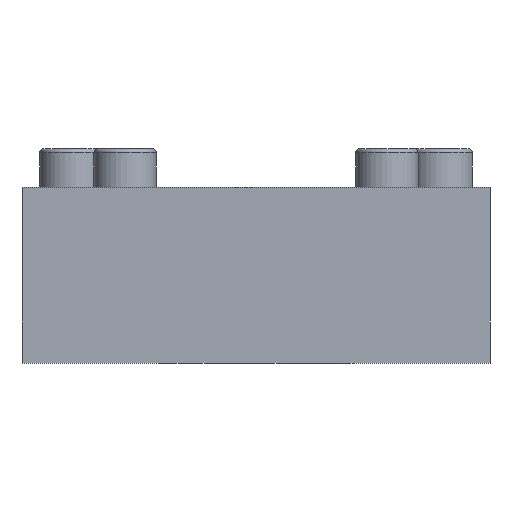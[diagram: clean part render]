
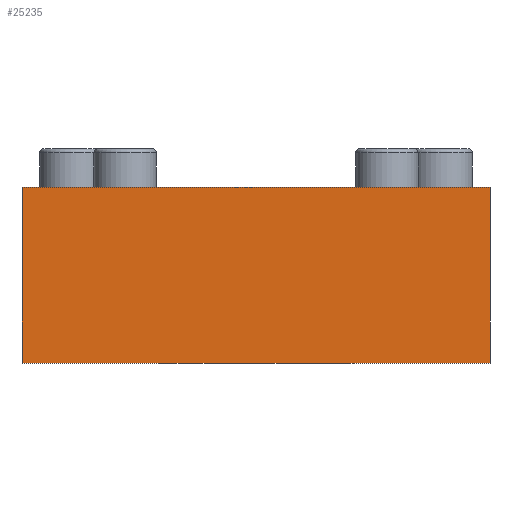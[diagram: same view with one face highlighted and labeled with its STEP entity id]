
A CAD part, front view. The second image highlights one B-rep face of the part: STEP entity #25235.
In plain terms, the highlighted planar face has unit normal (0, -1, 0).
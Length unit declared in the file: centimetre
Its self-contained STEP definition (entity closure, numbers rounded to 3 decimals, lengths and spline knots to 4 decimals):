
#2685=FACE_OUTER_BOUND('',#4023,.T.);
#4023=EDGE_LOOP('',(#17091,#17092,#17093,#17094));
#5505=LINE('',#32370,#8257);
#5509=LINE('',#32379,#8261);
#5510=LINE('',#32380,#8262);
#5511=LINE('',#32381,#8263);
#8257=VECTOR('',#27595,4.506);
#8261=VECTOR('',#27601,4.506);
#8262=VECTOR('',#27602,12.);
#8263=VECTOR('',#27603,12.);
#11055=VERTEX_POINT('',#32368);
#11056=VERTEX_POINT('',#32369);
#11059=VERTEX_POINT('',#32377);
#11060=VERTEX_POINT('',#32378);
#13475=EDGE_CURVE('',#11055,#11056,#5505,.T.);
#13479=EDGE_CURVE('',#11059,#11060,#5509,.T.);
#13480=EDGE_CURVE('',#11056,#11060,#5510,.T.);
#13481=EDGE_CURVE('',#11059,#11055,#5511,.T.);
#17091=ORIENTED_EDGE('',*,*,#13479,.T.);
#17092=ORIENTED_EDGE('',*,*,#13480,.F.);
#17093=ORIENTED_EDGE('',*,*,#13475,.F.);
#17094=ORIENTED_EDGE('',*,*,#13481,.F.);
#24309=PLANE('',#26577);
#25235=ADVANCED_FACE('',(#2685),#24309,.T.);
#26577=AXIS2_PLACEMENT_3D('',#32376,#27599,#27600);
#27595=DIRECTION('',(0.,0.,1.));
#27599=DIRECTION('center_axis',(0.,-1.,0.));
#27600=DIRECTION('ref_axis',(-1.,0.,0.));
#27601=DIRECTION('',(0.,0.,1.));
#27602=DIRECTION('',(1.,0.,0.));
#27603=DIRECTION('',(-1.,0.,0.));
#32368=CARTESIAN_POINT('',(-6.,-20.5,0.));
#32369=CARTESIAN_POINT('',(-6.,-20.5,4.506));
#32370=CARTESIAN_POINT('',(-6.,-20.5,0.));
#32376=CARTESIAN_POINT('Origin',(6.,-20.5,4.506));
#32377=CARTESIAN_POINT('',(6.,-20.5,0.));
#32378=CARTESIAN_POINT('',(6.,-20.5,4.506));
#32379=CARTESIAN_POINT('',(6.,-20.5,0.));
#32380=CARTESIAN_POINT('',(-6.,-20.5,4.506));
#32381=CARTESIAN_POINT('',(6.,-20.5,0.));
